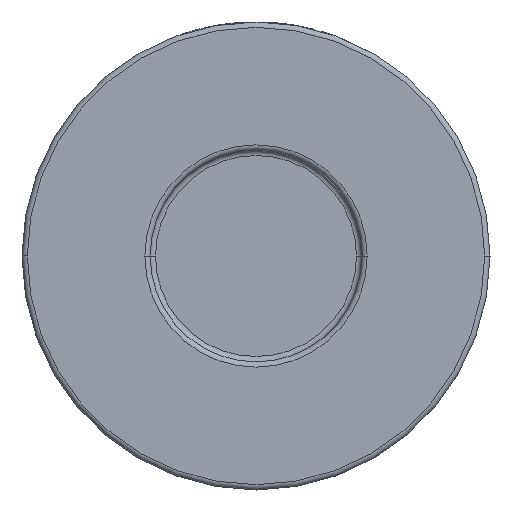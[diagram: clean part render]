
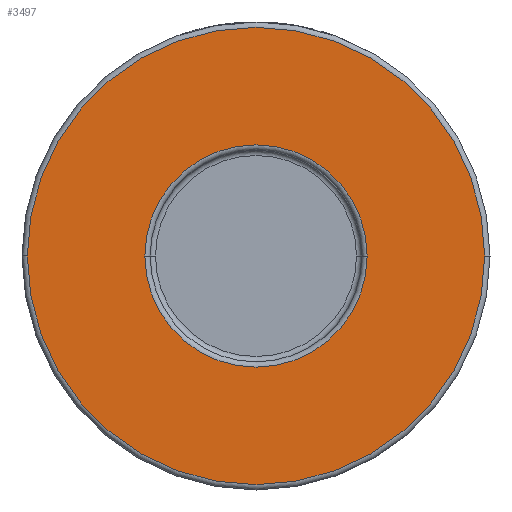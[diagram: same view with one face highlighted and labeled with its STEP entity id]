
A CAD part, front view. The second image highlights one B-rep face of the part: STEP entity #3497.
In plain terms, the highlighted planar face has unit normal (0, -1, 0).
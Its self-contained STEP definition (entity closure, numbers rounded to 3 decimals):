
#105 = ORIENTED_EDGE ( 'NONE', *, *, #275, .T. ) ;
#230 = DIRECTION ( 'NONE',  ( 1., 0., 0. ) ) ;
#275 = EDGE_CURVE ( 'NONE', #3016, #1297, #1359, .T. ) ;
#427 = EDGE_LOOP ( 'NONE', ( #1065, #105 ) ) ;
#465 = CIRCLE ( 'NONE', #1214, 20.9 ) ;
#778 = DIRECTION ( 'NONE',  ( 0., -1., 0. ) ) ;
#888 = CARTESIAN_POINT ( 'NONE',  ( 0., -19., 0. ) ) ;
#921 = CARTESIAN_POINT ( 'NONE',  ( 20.9, -19., 0. ) ) ;
#988 = DIRECTION ( 'NONE',  ( 0., -1., 0. ) ) ;
#1065 = ORIENTED_EDGE ( 'NONE', *, *, #2968, .T. ) ;
#1202 = CARTESIAN_POINT ( 'NONE',  ( 0., -19., 0. ) ) ;
#1214 = AXIS2_PLACEMENT_3D ( 'NONE', #3333, #4069, #230 ) ;
#1253 = CARTESIAN_POINT ( 'NONE',  ( -43., -19., 0. ) ) ;
#1289 = AXIS2_PLACEMENT_3D ( 'NONE', #1202, #2655, #2899 ) ;
#1297 = VERTEX_POINT ( 'NONE', #921 ) ;
#1359 = CIRCLE ( 'NONE', #3728, 20.9 ) ;
#1420 = CIRCLE ( 'NONE', #2080, 43. ) ;
#1611 = PLANE ( 'NONE',  #3642 ) ;
#1615 = ORIENTED_EDGE ( 'NONE', *, *, #4464, .T. ) ;
#1906 = VERTEX_POINT ( 'NONE', #1253 ) ;
#1940 = CARTESIAN_POINT ( 'NONE',  ( 43., -19., 0. ) ) ;
#2080 = AXIS2_PLACEMENT_3D ( 'NONE', #2281, #778, #3322 ) ;
#2281 = CARTESIAN_POINT ( 'NONE',  ( 0., -19., 0. ) ) ;
#2391 = DIRECTION ( 'NONE',  ( 1., 0., 0. ) ) ;
#2655 = DIRECTION ( 'NONE',  ( 0., -1., 0. ) ) ;
#2684 = CARTESIAN_POINT ( 'NONE',  ( -20.9, -19., 0. ) ) ;
#2790 = ORIENTED_EDGE ( 'NONE', *, *, #3650, .T. ) ;
#2899 = DIRECTION ( 'NONE',  ( 1., 0., 0. ) ) ;
#2968 = EDGE_CURVE ( 'NONE', #1297, #3016, #465, .T. ) ;
#3016 = VERTEX_POINT ( 'NONE', #2684 ) ;
#3033 = EDGE_LOOP ( 'NONE', ( #2790, #1615 ) ) ;
#3065 = FACE_OUTER_BOUND ( 'NONE', #3033, .T. ) ;
#3322 = DIRECTION ( 'NONE',  ( 1., 0., 0. ) ) ;
#3332 = DIRECTION ( 'NONE',  ( 1., 0., 0. ) ) ;
#3333 = CARTESIAN_POINT ( 'NONE',  ( 0., -19., 0. ) ) ;
#3398 = VERTEX_POINT ( 'NONE', #1940 ) ;
#3433 = FACE_BOUND ( 'NONE', #427, .T. ) ;
#3497 = ADVANCED_FACE ( 'NONE', ( #3433, #3065 ), #1611, .T. ) ;
#3642 = AXIS2_PLACEMENT_3D ( 'NONE', #4105, #988, #2391 ) ;
#3650 = EDGE_CURVE ( 'NONE', #3398, #1906, #1420, .T. ) ;
#3728 = AXIS2_PLACEMENT_3D ( 'NONE', #888, #4418, #3332 ) ;
#3779 = CIRCLE ( 'NONE', #1289, 43. ) ;
#4069 = DIRECTION ( 'NONE',  ( 0., 1., 0. ) ) ;
#4105 = CARTESIAN_POINT ( 'NONE',  ( 44., -19., 0. ) ) ;
#4418 = DIRECTION ( 'NONE',  ( 0., 1., 0. ) ) ;
#4464 = EDGE_CURVE ( 'NONE', #1906, #3398, #3779, .T. ) ;
